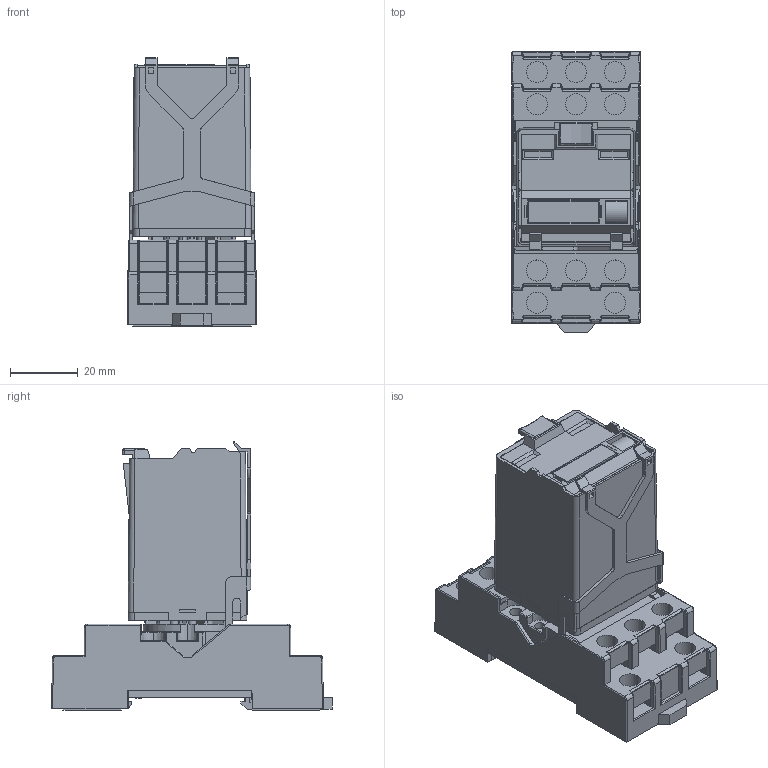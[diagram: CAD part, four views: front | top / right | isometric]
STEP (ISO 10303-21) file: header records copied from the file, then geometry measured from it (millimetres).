
FILE_DESCRIPTION (( 'STEP AP214' ), '1' );
FILE_NAME ('C3_plus_S3-S.STEP', '2024-04-04T07:43:23', ( '' ), ( '' ), 'SwSTEP 2.0', 'SolidWorks 2022', '' );
FILE_SCHEMA (( 'AUTOMOTIVE_DESIGN' ));
Length unit declared in the file: millimetre
Products named in the file (1): C3_plus_S3-S
Bounding box: 38 x 82.65 x 79.1 mm (x, y, z)
Volume: 112729.2 mm3; surface area: 32927.9 mm2
Topology: 1 solids, 12 shells, 1228 faces, 3404 edges, 2203 vertices
Faces by surface type: plane 804, cylinder 323, bspline 50, torus 25, cone 20, sphere 6
Entity records: 53720 total; most frequent: CARTESIAN_POINT 9846, ORIENTED_EDGE 6792, DIRECTION 5787, EDGE_CURVE 3396, LINE 2397, VECTOR 2397, VERTEX_POINT 2203, AXIS2_PLACEMENT_3D 1695
